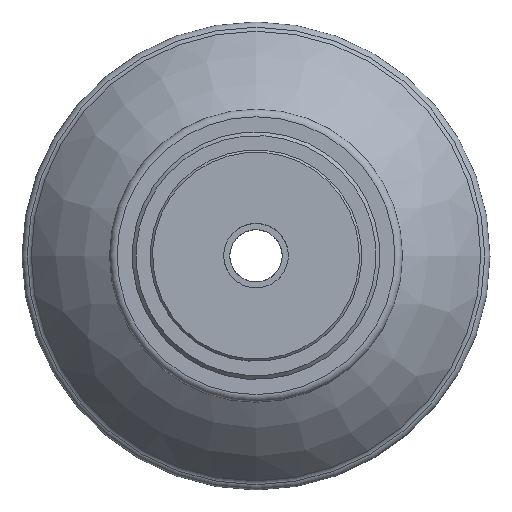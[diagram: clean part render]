
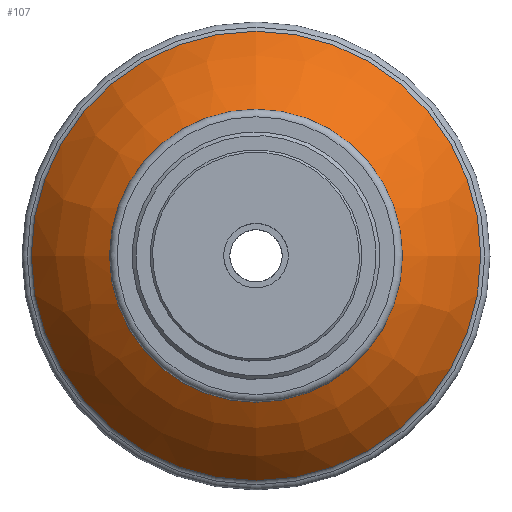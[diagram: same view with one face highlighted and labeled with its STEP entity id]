
A CAD part, top view. The second image highlights one B-rep face of the part: STEP entity #107.
In plain terms, the highlighted free-form (B-spline) face has degree [3, 3] with [4, 7] control points.
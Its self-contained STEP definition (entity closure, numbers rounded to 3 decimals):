
#107 = ADVANCED_FACE( '', ( #255, #256 ), #257, .T. );
#255 = FACE_OUTER_BOUND( '', #507, .T. );
#256 = FACE_OUTER_BOUND( '', #508, .T. );
#257 = ( BOUNDED_SURFACE(  )B_SPLINE_SURFACE( 3, 3, ( ( #511, #512, #513, #514, #515, #516, #517 ), ( #518, #519, #520, #521, #522, #523, #524 ), ( #525, #526, #527, #528, #529, #530, #531 ), ( #532, #533, #534, #535, #536, #537, #538 ) ), .UNSPECIFIED., .F., .T., .F. )B_SPLINE_SURFACE_WITH_KNOTS( ( 4, 4 ), ( 4, 3, 4 ), ( 0., 6.283 ), ( 0.587, 0.81, 1.033 ), .UNSPECIFIED. )GEOMETRIC_REPRESENTATION_ITEM(  )RATIONAL_B_SPLINE_SURFACE( ( ( 1., 0.333, 0.333, 1., 0.333, 0.333, 1. ), ( 0.983, 0.328, 0.328, 0.983, 0.328, 0.328, 0.983 ), ( 0.983, 0.328, 0.328, 0.983, 0.328, 0.328, 0.983 ), ( 1., 0.333, 0.333, 1., 0.333, 0.333, 1. ) ) )REPRESENTATION_ITEM( '' )SURFACE(  ) );
#507 = EDGE_LOOP( '', ( #858 ) );
#508 = EDGE_LOOP( '', ( #859 ) );
#511 = CARTESIAN_POINT( '', ( 18.517, 0., -1.806 ) );
#512 = CARTESIAN_POINT( '', ( 18.517, 37.033, -1.806 ) );
#513 = CARTESIAN_POINT( '', ( -18.517, 37.033, -1.806 ) );
#514 = CARTESIAN_POINT( '', ( -18.517, 0., -1.806 ) );
#515 = CARTESIAN_POINT( '', ( -18.517, -37.033, -1.806 ) );
#516 = CARTESIAN_POINT( '', ( 18.517, -37.033, -1.806 ) );
#517 = CARTESIAN_POINT( '', ( 18.517, 0., -1.806 ) );
#518 = CARTESIAN_POINT( '', ( 23.038, 0., -4.5 ) );
#519 = CARTESIAN_POINT( '', ( 23.038, 46.076, -4.5 ) );
#520 = CARTESIAN_POINT( '', ( -23.038, 46.076, -4.5 ) );
#521 = CARTESIAN_POINT( '', ( -23.038, 0., -4.5 ) );
#522 = CARTESIAN_POINT( '', ( -23.038, -46.076, -4.5 ) );
#523 = CARTESIAN_POINT( '', ( 23.038, -46.076, -4.5 ) );
#524 = CARTESIAN_POINT( '', ( 23.038, 0., -4.5 ) );
#525 = CARTESIAN_POINT( '', ( 26.851, 0., -8.127 ) );
#526 = CARTESIAN_POINT( '', ( 26.851, 53.703, -8.127 ) );
#527 = CARTESIAN_POINT( '', ( -26.851, 53.703, -8.127 ) );
#528 = CARTESIAN_POINT( '', ( -26.851, 0., -8.127 ) );
#529 = CARTESIAN_POINT( '', ( -26.851, -53.703, -8.127 ) );
#530 = CARTESIAN_POINT( '', ( 26.851, -53.703, -8.127 ) );
#531 = CARTESIAN_POINT( '', ( 26.851, 0., -8.127 ) );
#532 = CARTESIAN_POINT( '', ( 29.768, 0., -12.508 ) );
#533 = CARTESIAN_POINT( '', ( 29.768, 59.535, -12.508 ) );
#534 = CARTESIAN_POINT( '', ( -29.768, 59.535, -12.508 ) );
#535 = CARTESIAN_POINT( '', ( -29.768, 0., -12.508 ) );
#536 = CARTESIAN_POINT( '', ( -29.768, -59.535, -12.508 ) );
#537 = CARTESIAN_POINT( '', ( 29.768, -59.535, -12.508 ) );
#538 = CARTESIAN_POINT( '', ( 29.768, 0., -12.508 ) );
#858 = ORIENTED_EDGE( '', *, *, #1194, .T. );
#859 = ORIENTED_EDGE( '', *, *, #1195, .F. );
#1194 = EDGE_CURVE( '', #1318, #1318, #1319, .T. );
#1195 = EDGE_CURVE( '', #1320, #1320, #1321, .T. );
#1318 = VERTEX_POINT( '', #1495 );
#1319 = CIRCLE( '', #1496, 29.768 );
#1320 = VERTEX_POINT( '', #1497 );
#1321 = CIRCLE( '', #1498, 18.517 );
#1495 = CARTESIAN_POINT( '', ( 29.768, 0., -12.508 ) );
#1496 = AXIS2_PLACEMENT_3D( '', #1674, #1675, #1676 );
#1497 = CARTESIAN_POINT( '', ( 18.517, 0., -1.806 ) );
#1498 = AXIS2_PLACEMENT_3D( '', #1677, #1678, #1679 );
#1674 = CARTESIAN_POINT( '', ( 0., 0., -12.508 ) );
#1675 = DIRECTION( '', ( 0., 0., 1. ) );
#1676 = DIRECTION( '', ( 1., 0., 0. ) );
#1677 = CARTESIAN_POINT( '', ( 0., 0., -1.806 ) );
#1678 = DIRECTION( '', ( 0., 0., 1. ) );
#1679 = DIRECTION( '', ( 1., 0., 0. ) );
